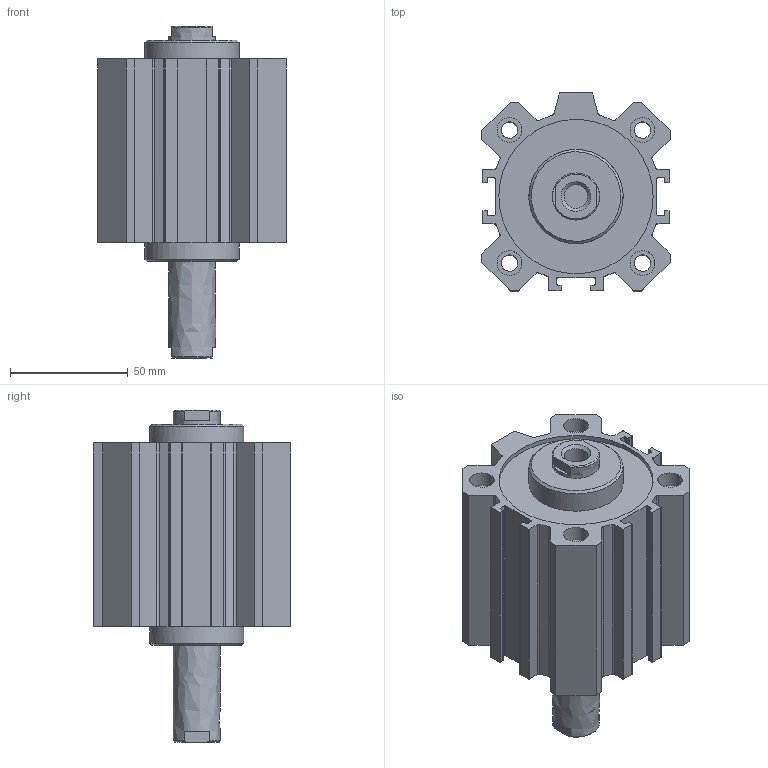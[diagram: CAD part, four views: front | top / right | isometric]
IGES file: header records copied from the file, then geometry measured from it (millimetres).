
Global section: file name: 1514_63_0035; native system: Autodesk Inventor 2014; preprocessor: unknown; author: A. Manieri; date: 20160824.140242; units: millimetre
Bounding box: 80 x 84 x 141 mm (x, y, z)
Volume: 327679.7 mm3; surface area: 89732.6 mm2
Topology: 2 solids, 2 shells, 178 faces, 482 edges, 328 vertices
Faces by surface type: bspline 178
